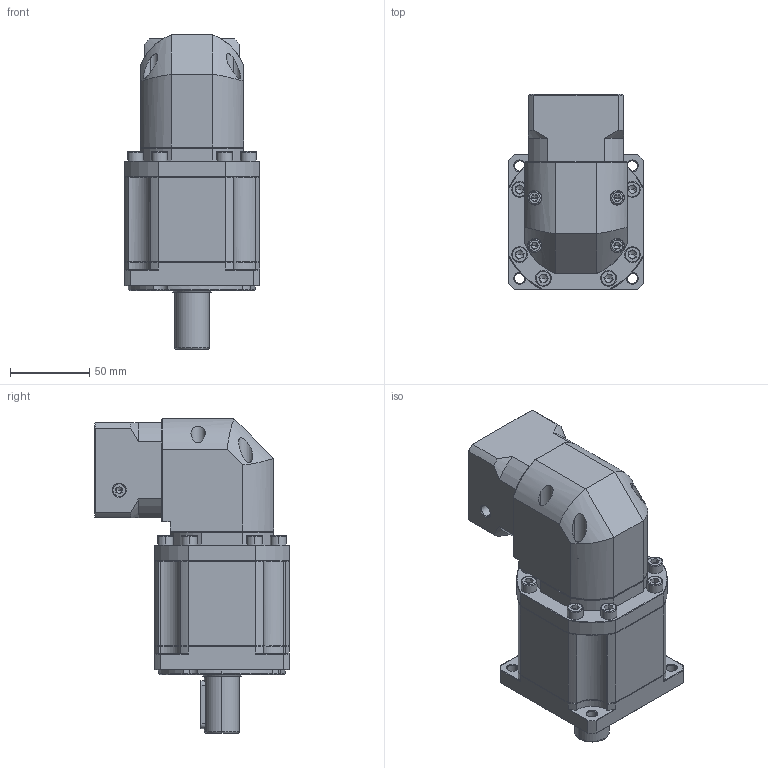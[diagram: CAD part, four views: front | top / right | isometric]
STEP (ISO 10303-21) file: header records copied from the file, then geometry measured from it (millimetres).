
FILE_DESCRIPTION (( 'STEP AP214' ), '1' );
FILE_NAME ('ZBR090-D22-L3-P2-11-50-70-M4.step', '2023-08-19T03:59:10', ( '' ), ( '' ), 'SwSTEP 2.0', 'SolidWorks 2016', '' );
FILE_SCHEMA (( 'AUTOMOTIVE_DESIGN' ));
Length unit declared in the file: millimetre
Products named in the file (1): ZBR090-D22-L3-P2-11-50-70-M4
Bounding box: 85 x 122.7 x 198 mm (x, y, z)
Volume: 923916.1 mm3; surface area: 105291.9 mm2
Topology: 5 solids, 5 shells, 2429 faces, 6458 edges, 4131 vertices
Faces by surface type: plane 1178, cylinder 437, bspline 426, cone 368, torus 20
Entity records: 127355 total; most frequent: CARTESIAN_POINT 43542, ORIENTED_EDGE 12824, DIRECTION 10335, EDGE_CURVE 6412, VERTEX_POINT 4131, LINE 4013, VECTOR 4013, AXIS2_PLACEMENT_3D 3161
